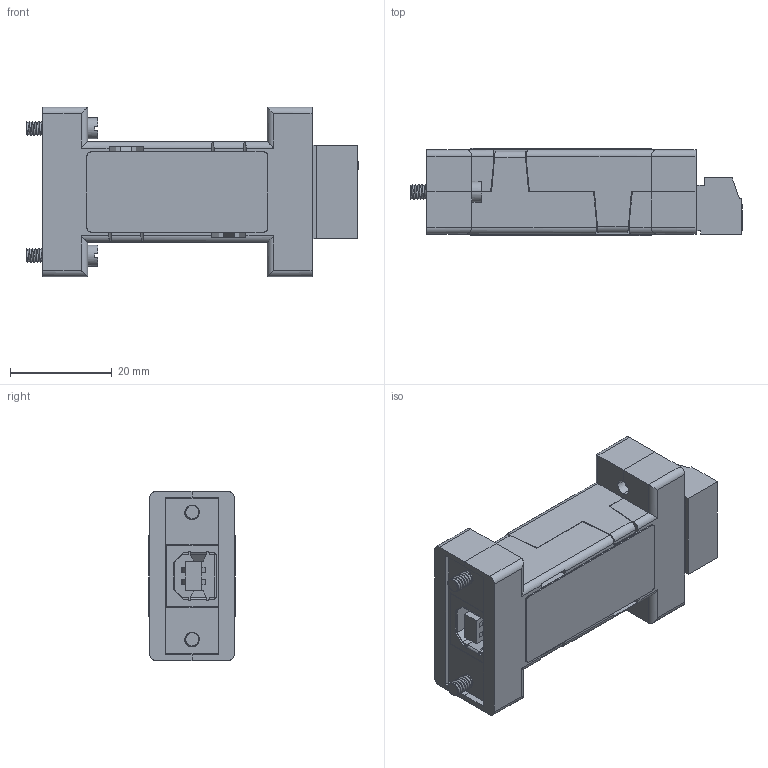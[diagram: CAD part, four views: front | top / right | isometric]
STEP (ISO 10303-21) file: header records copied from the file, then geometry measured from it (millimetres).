
FILE_DESCRIPTION (( 'STEP AP214' ), '1' );
FILE_NAME ('485USBTB-2W.STEP', '2020-10-21T22:28:06', ( '' ), ( '' ), 'SwSTEP 2.0', 'SolidWorks 2016', '' );
FILE_SCHEMA (( 'AUTOMOTIVE_DESIGN' ));
Length unit declared in the file: inch
Products named in the file (15): 7372 Plug; 7371 Header; 4921 USB B; USBR P 6; USBR B 4; USBR S 2; 957-009-0Y0R0Y1; 9522 Hood; 957 Jackscrew; 485USBTB-2W; 9667; 250-10547-00; 7937 PCB; 7930 Retainer; 7703 Retainer
Assembly tree (16 placements, depth 3):
  485USBTB-2W
    957-009-0Y0R0Y1
      957 Jackscrew  x2
      9522 Hood  x2
    4921 USB B
      USBR S 2
      USBR B 4
      USBR P 6
    7371 Header
    7372 Plug
    7703 Retainer
    7930 Retainer
    7937 PCB
    250-10547-00
    9667
Bounding box: 65.27 x 17.09 x 33.3 mm (x, y, z)
Volume: 13708.3 mm3; surface area: 22792.5 mm2
Topology: 14 solids, 14 shells, 1150 faces, 3030 edges, 1986 vertices
Faces by surface type: plane 902, cylinder 226, cone 10, sphere 8, bspline 4
Entity records: 32256 total; most frequent: CARTESIAN_POINT 5993, ORIENTED_EDGE 5102, DIRECTION 4822, EDGE_CURVE 2551, VECTOR 2164, LINE 2164, VERTEX_POINT 1673, AXIS2_PLACEMENT_3D 1329
